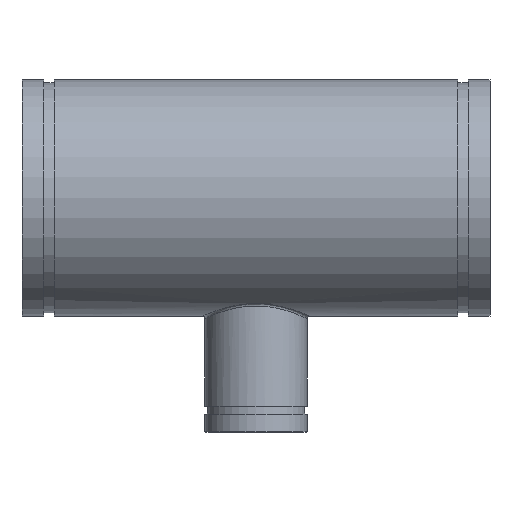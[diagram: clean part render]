
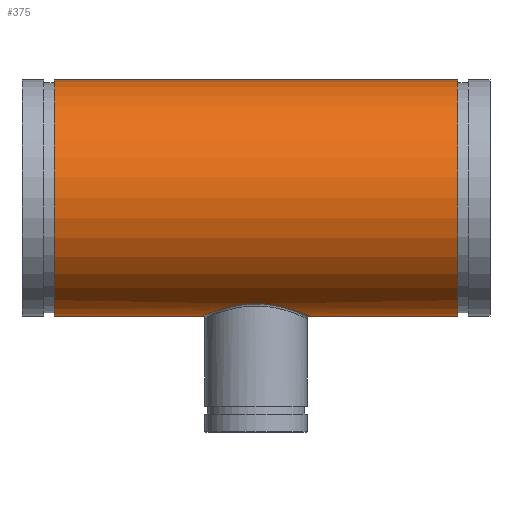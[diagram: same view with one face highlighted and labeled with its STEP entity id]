
A CAD part, top view. The second image highlights one B-rep face of the part: STEP entity #375.
In plain terms, the highlighted cylindrical face has radius 140.97 mm (diameter 281.94 mm), a full revolution.
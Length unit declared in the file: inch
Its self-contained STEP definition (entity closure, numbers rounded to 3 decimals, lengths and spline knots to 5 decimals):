
#54=FACE_BOUND('',#119,.T.);
#65=LINE('',#791,#76);
#76=VECTOR('',#483,5.55);
#87=CYLINDRICAL_SURFACE('',#415,5.55);
#98=FACE_OUTER_BOUND('',#118,.T.);
#118=EDGE_LOOP('',(#266,#267,#268,#269));
#119=EDGE_LOOP('',(#270));
#150=B_SPLINE_CURVE_WITH_KNOTS('',3,(#763,#764,#765,#766,#767,#768,#769,
#770,#771,#772,#773,#774,#775,#776,#777,#778,#779,#780,#781,#782,#783,#784,
#785,#786),.UNSPECIFIED.,.T.,.F.,(4,1,1,1,1,1,1,1,1,1,1,1,1,1,1,1,1,1,1,
1,1,4),(-37.28197,-35.95047,-34.61897,-31.95597,
-30.18064,-28.40531,-26.62998,-24.85464,
-23.07931,-21.30398,-19.52865,-17.75332,
-15.97799,-14.20265,-12.42732,-10.65199,
-8.87666,-7.10133,-5.326,-2.663,-1.3315,
0.),.UNSPECIFIED.);
#154=CIRCLE('',#416,5.55);
#155=CIRCLE('',#417,5.55);
#182=VERTEX_POINT('',#731);
#185=VERTEX_POINT('',#788);
#186=VERTEX_POINT('',#790);
#219=EDGE_CURVE('',#182,#182,#150,.T.);
#220=EDGE_CURVE('',#185,#185,#154,.T.);
#221=EDGE_CURVE('',#185,#186,#65,.T.);
#222=EDGE_CURVE('',#186,#186,#155,.T.);
#266=ORIENTED_EDGE('',*,*,#220,.T.);
#267=ORIENTED_EDGE('',*,*,#221,.T.);
#268=ORIENTED_EDGE('',*,*,#222,.T.);
#269=ORIENTED_EDGE('',*,*,#221,.F.);
#270=ORIENTED_EDGE('',*,*,#219,.F.);
#375=ADVANCED_FACE('',(#98,#54),#87,.T.);
#415=AXIS2_PLACEMENT_3D('',#787,#479,#480);
#416=AXIS2_PLACEMENT_3D('',#789,#481,#482);
#417=AXIS2_PLACEMENT_3D('',#792,#484,#485);
#479=DIRECTION('center_axis',(-1.,0.,0.));
#480=DIRECTION('ref_axis',(0.,-1.,0.));
#481=DIRECTION('center_axis',(1.,0.,0.));
#482=DIRECTION('ref_axis',(0.,-1.,0.));
#483=DIRECTION('',(1.,0.,0.));
#484=DIRECTION('center_axis',(-1.,0.,0.));
#485=DIRECTION('ref_axis',(0.,-1.,0.));
#731=CARTESIAN_POINT('',(0.,-4.97038,-2.46938));
#763=CARTESIAN_POINT('Ctrl Pts',(0.,-4.97038,
-2.46938));
#764=CARTESIAN_POINT('Ctrl Pts',(0.19144,-4.97038,-2.46938));
#765=CARTESIAN_POINT('Ctrl Pts',(0.57416,-4.992,-2.42647));
#766=CARTESIAN_POINT('Ctrl Pts',(1.29236,-5.10984,-2.17729));
#767=CARTESIAN_POINT('Ctrl Pts',(1.93564,-5.31027,-1.67345));
#768=CARTESIAN_POINT('Ctrl Pts',(2.38175,-5.48738,-0.92604));
#769=CARTESIAN_POINT('Ctrl Pts',(2.55692,-5.56413,-0.19062));
#770=CARTESIAN_POINT('Ctrl Pts',(2.49758,-5.53763,0.56626));
#771=CARTESIAN_POINT('Ctrl Pts',(2.21402,-5.41808,1.26161));
#772=CARTESIAN_POINT('Ctrl Pts',(1.74242,-5.24627,1.83646));
#773=CARTESIAN_POINT('Ctrl Pts',(1.12091,-5.07589,2.2536));
#774=CARTESIAN_POINT('Ctrl Pts',(0.3886,-4.96592,2.47867));
#775=CARTESIAN_POINT('Ctrl Pts',(-0.3886,-4.96591,2.47867));
#776=CARTESIAN_POINT('Ctrl Pts',(-1.1209,-5.07591,2.2536));
#777=CARTESIAN_POINT('Ctrl Pts',(-1.74242,-5.24626,1.83645));
#778=CARTESIAN_POINT('Ctrl Pts',(-2.21403,-5.41809,1.2616));
#779=CARTESIAN_POINT('Ctrl Pts',(-2.49757,-5.53764,0.56628));
#780=CARTESIAN_POINT('Ctrl Pts',(-2.55692,-5.56413,-0.19063));
#781=CARTESIAN_POINT('Ctrl Pts',(-2.38175,-5.48738,-0.92603));
#782=CARTESIAN_POINT('Ctrl Pts',(-1.93563,-5.31026,-1.67346));
#783=CARTESIAN_POINT('Ctrl Pts',(-1.29235,-5.10983,-2.17729));
#784=CARTESIAN_POINT('Ctrl Pts',(-0.57416,-4.992,-2.42647));
#785=CARTESIAN_POINT('Ctrl Pts',(-0.19144,-4.97038,-2.46938));
#786=CARTESIAN_POINT('Ctrl Pts',(0.,-4.97038,
-2.46938));
#787=CARTESIAN_POINT('Origin',(11.,0.,0.));
#788=CARTESIAN_POINT('',(-9.485,5.55,0.));
#789=CARTESIAN_POINT('Origin',(-9.485,0.,0.));
#790=CARTESIAN_POINT('',(9.485,5.55,0.));
#791=CARTESIAN_POINT('',(11.,5.55,0.));
#792=CARTESIAN_POINT('Origin',(9.485,0.,0.));
